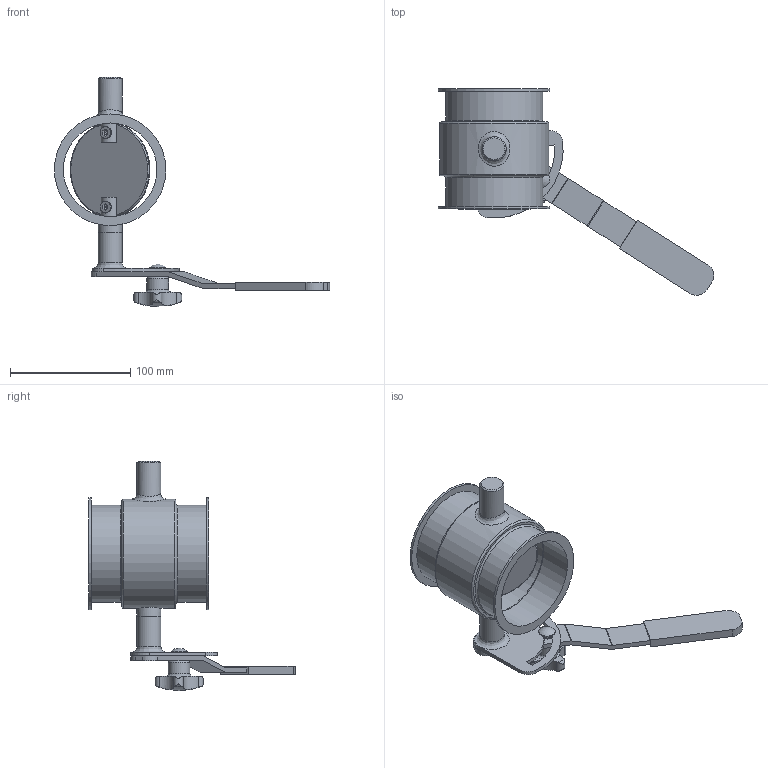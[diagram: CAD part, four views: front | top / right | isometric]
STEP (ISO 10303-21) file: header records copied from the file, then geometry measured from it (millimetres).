
FILE_DESCRIPTION((''),'2;1');
FILE_NAME('U:\Wolfgang\Marcel-3D\fertig\Kapitel 8\0811076.stp','2011-05-03T15:13:58',('TK1'),(''),'Autodesk Inventor 2010','Autodesk Inventor 2010','');
FILE_SCHEMA(('AUTOMOTIVE_DESIGN { 1 0 10303 214 1 1 1 1 }'));
Length unit declared in the file: millimetre
Products named in the file (9): 0811076; Bolzen D15; ganter_din_6335-ku-40-m8-k; Griff D15; Umstellsegment D15; Scheibe80b; DIN 6912 M6 x 16; DIN 603 M5 x 25
Assembly tree (9 placements, depth 2):
  0811076
    Bolzen D15
    ganter_din_6335-ku-40-m8-k
    Griff D15
    Umstellsegment D15
    Scheibe80b
    DIN 6912 M6 x 16  x2
    DIN 603 M5 x 25
    0811076
Bounding box: 229.41 x 171.7 x 191 mm (x, y, z)
Volume: 187811.6 mm3; surface area: 134183.1 mm2
Topology: 9 solids, 9 shells, 182 faces, 428 edges, 279 vertices
Faces by surface type: plane 77, cylinder 62, cone 16, torus 13, bspline 12, sphere 2
Full cylindrical faces by diameter (mm): 3 x2, 5 x1, 6 x6, 6.4 x1, 7 x1, 10 x4, 13 x1, 13.55 x1, 15 x8, 18 x1, 20 x3, 78 x3, 79 x1, 81 x2, 87 x1, 88 x1, 91 x1, 93 x2
Entity records: 5975 total; most frequent: CARTESIAN_POINT 2182, DIRECTION 746, ORIENTED_EDGE 632, AXIS2_PLACEMENT_3D 320, EDGE_CURVE 316, EDGE_LOOP 269, VERTEX_POINT 241, FACE_OUTER_BOUND 167
